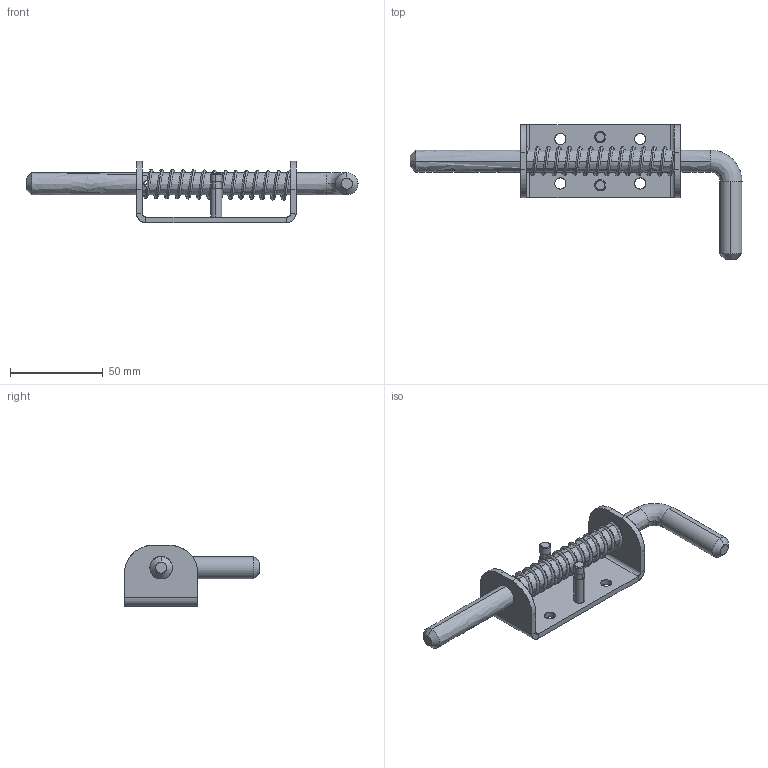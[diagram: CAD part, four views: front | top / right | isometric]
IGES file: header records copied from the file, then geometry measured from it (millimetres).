
Start section: SolidWorks IGES file using analytic representation for surfaces
Global section: file name: C:\Users\cbrechard\Desktop\30318 EIB.IGS; native system: SolidWorks 2017; preprocessor: SolidWorks 2017; author: cbrechard; date: 180720.155529; units: millimetre
Bounding box: 179 x 72.75 x 33 mm (x, y, z)
Surface area: 24810.4 mm2 (no closed solid volume)
Topology: 0 solids, 0 shells, 92 faces, 1644 edges, 1644 vertices
Faces by surface type: revolution 58, bspline 34
